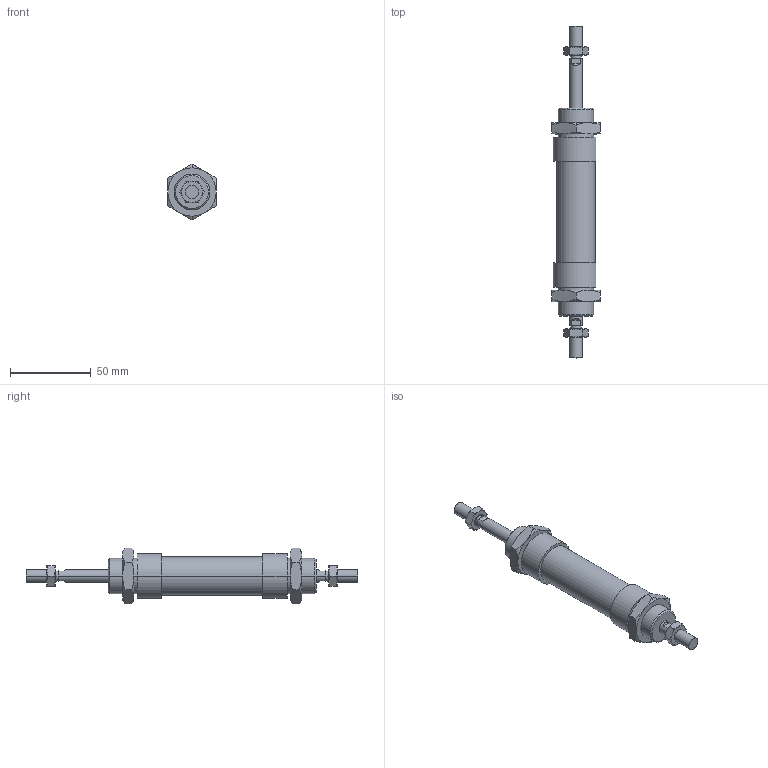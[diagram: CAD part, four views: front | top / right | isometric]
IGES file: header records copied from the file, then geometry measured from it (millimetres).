
Global section: file name: No Iges File Name specified; native system: AutoDesk Inventor R6.0; preprocessor: AutoDesk Inventor Iges Exporter R6.0; author: No Author specified; organization: No Organization specified; date: 20030403.072254; units: millimetre
Bounding box: 30 x 206 x 34.64 mm (x, y, z)
Volume: 69985.8 mm3; surface area: 24954.1 mm2
Topology: 6 solids, 6 shells, 186 faces, 414 edges, 244 vertices
Faces by surface type: cone 68, plane 60, bspline 32, cylinder 20, revolution 6
